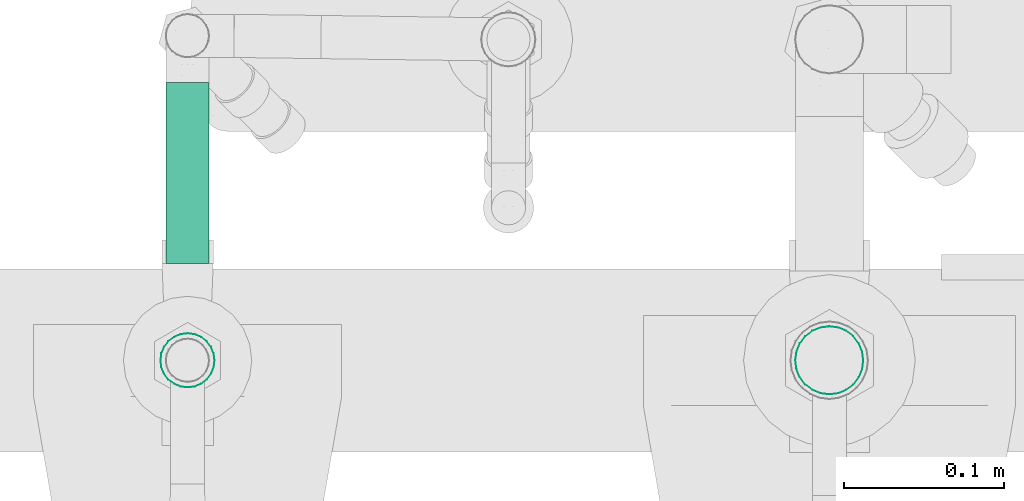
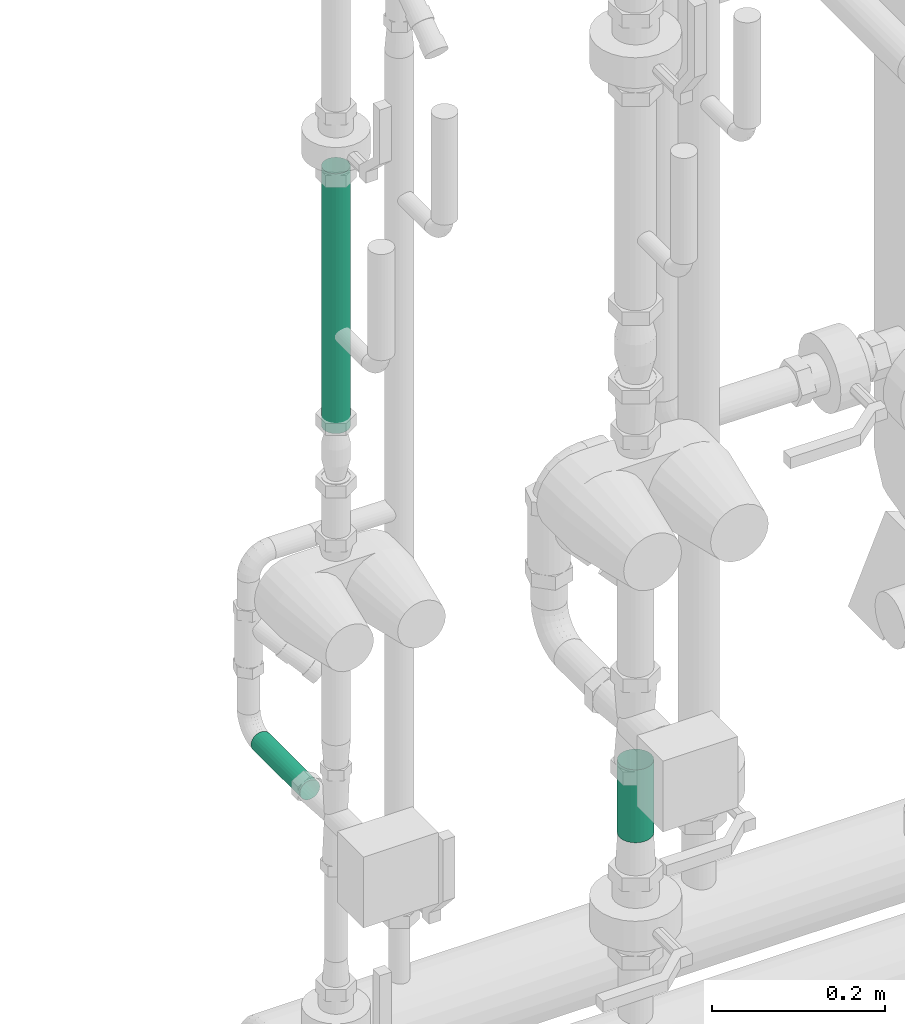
# One storey, part 252 of 374: 3 flow segments.
"""IFC2X3 building model written with IfcOpenShell, lengths in metres."""

from ifc_helpers import new_model, si_unit, direction, origin, place, context, subcontext, project, spatial, open_shell, surface_model, source, transform, mapped, element, save


model = new_model("IFC2X3")

# Units and contexts
model_context = context("Model", 3, precision=1e-05, world=origin(), true_north=direction((-0.4480736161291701, 0.8939966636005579)))
body_context = subcontext(model_context, "Body", "Model", "MODEL_VIEW")
ifc_project = project(units=[si_unit("LENGTHUNIT", "METRE"), si_unit("AREAUNIT", "SQUARE_METRE"), si_unit("VOLUMEUNIT", "CUBIC_METRE"), si_unit("PLANEANGLEUNIT", "RADIAN"), si_unit("THERMODYNAMICTEMPERATUREUNIT", "KELVIN"), si_unit("MASSUNIT", "GRAM", prefix="KILO"), si_unit("TIMEUNIT", "SECOND")], contexts=[model_context])

# Site, building, storey
site_placement = place(None, origin())
site = spatial("IfcSite", under=ifc_project, at=site_placement, Name="Site 1", CompositionType="ELEMENT")
building_placement = place(site_placement, origin())
building = spatial("IfcBuilding", under=site, at=building_placement, Name="Undefined", CompositionType="ELEMENT")
storey_placement = place(building_placement, origin())
storey = spatial("IfcBuildingStorey", under=building, at=storey_placement, Name="Rez de chauss\x8ee", CompositionType="ELEMENT", Elevation=0.0)

# Flow segments
shared_shape_1 = source(origin(), body_context, "Body", "SurfaceModel", [
    surface_model("IfcFaceBasedSurfaceModel", [(0.0, 0.004398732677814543, 0.0), (0.0, 0.0, 0.0), (0.3667415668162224, -8.8817842e-16, 0.0), (0.3667415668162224, 0.004398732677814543, 0.0), (0.0, -0.004248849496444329, -0.00113847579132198), (0.3667415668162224, -0.004248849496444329, -0.00113847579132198), (0.0, -0.008058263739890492, -0.003337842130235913), (0.3667415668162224, -0.008058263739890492, -0.003337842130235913), (0.0, -0.01116863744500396, -0.0064482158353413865), (0.3667415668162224, -0.01116863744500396, -0.0064482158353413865), (0.0, -0.013368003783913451, -0.010257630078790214), (0.3667415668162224, -0.013368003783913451, -0.010257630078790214), (0.0, -0.014506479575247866, -0.014506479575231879), (0.3667415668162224, -0.014506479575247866, -0.014506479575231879), (0.0, -0.01450647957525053, -0.01890521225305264), (0.3667415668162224, -0.01450647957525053, -0.01890521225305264), (0.0, -0.013368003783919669, -0.023154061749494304), (0.3667415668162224, -0.013368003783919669, -0.023154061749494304), (0.0, -0.011168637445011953, -0.02696347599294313), (0.3667415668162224, -0.011168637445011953, -0.02696347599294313), (0.0, -0.008058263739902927, -0.03007384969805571), (0.3667415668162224, -0.008058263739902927, -0.03007384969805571), (0.0, -0.004248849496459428, -0.03227321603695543), (0.3667415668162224, -0.004248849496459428, -0.03227321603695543), (0.0, -1.5099033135e-14, -0.03341169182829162), (0.3667415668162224, -1.5099033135e-14, -0.03341169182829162), (0.0, 0.00439873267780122, -0.03341169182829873), (0.3667415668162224, 0.00439873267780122, -0.03341169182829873), (0.0, 0.008647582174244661, -0.03227321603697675), (0.3667415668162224, 0.008647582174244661, -0.03227321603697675), (0.0, 0.012456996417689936, -0.030073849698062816), (0.3667415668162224, 0.012456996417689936, -0.030073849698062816), (0.0, 0.01556737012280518, -0.026963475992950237), (0.3667415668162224, 0.01556737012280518, -0.026963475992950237), (0.0, 0.017766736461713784, -0.023154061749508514), (0.3667415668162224, 0.017766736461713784, -0.023154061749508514), (0.0, 0.018905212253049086, -0.01890521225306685), (0.3667415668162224, 0.018905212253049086, -0.01890521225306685), (0.0, 0.018905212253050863, -0.01450647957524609), (0.3667415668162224, 0.018905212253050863, -0.01450647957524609), (0.0, 0.01776673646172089, -0.01025763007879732), (0.3667415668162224, 0.01776673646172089, -0.01025763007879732), (0.0, 0.015567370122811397, -0.006448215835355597), (0.3667415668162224, 0.015567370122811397, -0.006448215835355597), (0.0, 0.012456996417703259, -0.0033378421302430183), (0.3667415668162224, 0.012456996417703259, -0.0033378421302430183), (0.0, 0.00864758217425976, -0.0011384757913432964), (0.3667415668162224, 0.00864758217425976, -0.0011384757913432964)], [open_shell([[[0, 1, 2, 3]], [[1, 4, 5, 2]], [[4, 6, 7, 5]], [[6, 8, 9, 7]], [[8, 10, 11, 9]], [[10, 12, 13, 11]], [[12, 14, 15, 13]], [[14, 16, 17, 15]], [[16, 18, 19, 17]], [[18, 20, 21, 19]], [[20, 22, 23, 21]], [[22, 24, 25, 23]], [[24, 26, 27, 25]], [[26, 28, 29, 27]], [[28, 30, 31, 29]], [[30, 32, 33, 31]], [[32, 34, 35, 33]], [[34, 36, 37, 35]], [[36, 38, 39, 37]], [[38, 40, 41, 39]], [[40, 42, 43, 41]], [[42, 44, 45, 43]], [[44, 46, 47, 45]], [[46, 0, 3, 47]]])]),
])
flow_segment_1_placement = place(storey_placement, origin())
element("IfcFlowSegment", 1, at=flow_segment_1_placement, inside=storey, Name="Tube acier d'après DIN 2448", ObjectType="Tube acier d'après DIN 2448", context=body_context, shape_type="MappedRepresentation", body=[
    mapped(shared_shape_1, transform((52.07383786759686, 10.722398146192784, 1.3275475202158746), x_axis=(0.0, 0.0, 1.0), y_axis=(0.13052619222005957, -0.9914448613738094, 0.0), z_axis=(0.9914448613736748, 0.13052619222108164, 0.0))),
])
shared_shape_2 = source(origin(), body_context, "Body", "SurfaceModel", [
    surface_model("IfcFaceBasedSurfaceModel", [(0.0, 0.0035111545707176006, 0.0), (0.0, 0.0, 0.0), (0.11278886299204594, -1.776356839e-15, -7.105427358e-15), (0.11278886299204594, 0.0035111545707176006, 0.0), (0.0, -0.003391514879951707, -0.0009087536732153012), (0.11278886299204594, -0.003391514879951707, -0.0009087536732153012), (0.0, -0.006432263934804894, -0.0026643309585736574), (0.11278886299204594, -0.006432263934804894, -0.0026643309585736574), (0.0, -0.00891502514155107, -0.005147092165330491), (0.11278886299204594, -0.00891502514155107, -0.005147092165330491), (0.0, -0.010670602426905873, -0.008187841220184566), (0.11278886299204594, -0.010670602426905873, -0.008187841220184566), (0.0, -0.011579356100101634, -0.01157935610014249), (0.11278886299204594, -0.011579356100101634, -0.01157935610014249), (0.0, -0.011579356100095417, -0.015090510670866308), (0.11278886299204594, -0.011579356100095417, -0.015090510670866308), (0.0, -0.010670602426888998, -0.018482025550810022), (0.11278886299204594, -0.010670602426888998, -0.018482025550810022), (0.0, -0.008915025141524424, -0.021522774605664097), (0.11278886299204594, -0.008915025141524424, -0.021522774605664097), (0.0, -0.006432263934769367, -0.02400553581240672), (0.11278886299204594, -0.006432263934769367, -0.02400553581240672), (0.0, -0.0033915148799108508, -0.025761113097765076), (0.11278886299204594, -0.0033915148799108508, -0.025761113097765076), (0.0, 4.2632564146e-14, -0.026669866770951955), (0.11278886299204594, 4.2632564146e-14, -0.026669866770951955), (0.0, 0.0035111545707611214, -0.026669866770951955), (0.11278886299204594, 0.0035111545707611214, -0.026669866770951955), (0.0, 0.006902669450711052, -0.02576111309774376), (0.11278886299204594, 0.006902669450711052, -0.02576111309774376), (0.0, 0.00994341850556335, -0.024005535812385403), (0.11278886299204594, 0.00994341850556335, -0.024005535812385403), (0.0, 0.012426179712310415, -0.02152277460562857), (0.11278886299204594, 0.012426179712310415, -0.02152277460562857), (0.0, 0.014181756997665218, -0.018482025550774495), (0.11278886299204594, 0.014181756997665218, -0.018482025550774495), (0.0, 0.015090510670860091, -0.01509051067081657), (0.11278886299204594, 0.015090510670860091, -0.01509051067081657), (0.0, 0.015090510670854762, -0.011579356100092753), (0.11278886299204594, 0.015090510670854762, -0.011579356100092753), (0.0, 0.014181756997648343, -0.00818784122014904), (0.11278886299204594, 0.014181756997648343, -0.00818784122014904), (0.0, 0.012426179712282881, -0.005147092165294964), (0.11278886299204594, 0.012426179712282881, -0.005147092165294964), (0.0, 0.009943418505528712, -0.002664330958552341), (0.11278886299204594, 0.009943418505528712, -0.002664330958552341), (0.0, 0.006902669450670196, -0.0009087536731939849), (0.11278886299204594, 0.006902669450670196, -0.0009087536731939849)], [open_shell([[[0, 1, 2, 3]], [[1, 4, 5, 2]], [[4, 6, 7, 5]], [[6, 8, 9, 7]], [[8, 10, 11, 9]], [[10, 12, 13, 11]], [[12, 14, 15, 13]], [[14, 16, 17, 15]], [[16, 18, 19, 17]], [[18, 20, 21, 19]], [[20, 22, 23, 21]], [[22, 24, 25, 23]], [[24, 26, 27, 25]], [[26, 28, 29, 27]], [[28, 30, 31, 29]], [[30, 32, 33, 31]], [[32, 34, 35, 33]], [[34, 36, 37, 35]], [[36, 38, 39, 37]], [[38, 40, 41, 39]], [[40, 42, 43, 41]], [[42, 44, 45, 43]], [[44, 46, 47, 45]], [[46, 0, 3, 47]]])]),
])
flow_segment_2_placement = place(storey_placement, origin())
element("IfcFlowSegment", 2, at=flow_segment_2_placement, inside=storey, Name="Tube acier d'après DIN 2448", ObjectType="Tube acier d'après DIN 2448", context=body_context, shape_type="MappedRepresentation", body=[
    mapped(shared_shape_2, transform((52.0445703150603, 10.778537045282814, 0.7798323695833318), x_axis=(0.0, 1.0, 0.0), y_axis=(-0.13052619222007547, 0.0, -0.9914448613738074), z_axis=(-0.9914448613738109, 0.0, 0.1305261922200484))),
])
shared_shape_3 = source(origin(), body_context, "Body", "SurfaceModel", [
    surface_model("IfcFaceBasedSurfaceModel", [(0.0, 0.005534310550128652, 0.0), (0.0, 0.0, 0.0), (0.10290125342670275, -8.8817842e-16, 7.105427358e-15), (0.10290125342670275, 0.005534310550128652, 0.0), (0.0, -0.00534573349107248, -0.0014323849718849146), (0.10290125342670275, -0.00534573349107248, -0.0014323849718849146), (0.0, -0.010138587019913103, -0.004199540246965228), (0.10290125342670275, -0.010138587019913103, -0.004199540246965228), (0.0, -0.01405193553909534, -0.008112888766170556), (0.10290125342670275, -0.01405193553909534, -0.008112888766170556), (0.0, -0.016819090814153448, -0.012905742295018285), (0.10290125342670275, -0.016819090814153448, -0.012905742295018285), (0.0, -0.018251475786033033, -0.018251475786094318), (0.10290125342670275, -0.018251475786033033, -0.018251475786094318), (0.0, -0.0182514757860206, -0.02378578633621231), (0.10290125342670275, -0.0182514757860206, -0.02378578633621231), (0.0, -0.01681909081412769, -0.029131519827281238), (0.10290125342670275, -0.01681909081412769, -0.029131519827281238), (0.0, -0.014051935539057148, -0.03392437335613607), (0.10290125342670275, -0.014051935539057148, -0.03392437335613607), (0.0, -0.010138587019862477, -0.037837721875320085), (0.10290125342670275, -0.010138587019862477, -0.037837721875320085), (0.0, -0.005345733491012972, -0.040604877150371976), (0.10290125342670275, -0.005345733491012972, -0.040604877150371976), (0.0, 6.4837024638e-14, -0.042037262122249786), (0.10290125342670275, 6.4837024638e-14, -0.042037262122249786), (0.0, 0.005534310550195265, -0.04203726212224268), (0.10290125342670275, 0.005534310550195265, -0.04203726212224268), (0.0, 0.010880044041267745, -0.04060487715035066), (0.10290125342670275, 0.010880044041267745, -0.04060487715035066), (0.0, 0.01567289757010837, -0.03783772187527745), (0.10290125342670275, 0.01567289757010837, -0.03783772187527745), (0.0, 0.019586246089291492, -0.033924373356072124), (0.10290125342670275, 0.019586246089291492, -0.033924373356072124), (0.0, 0.0223534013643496, -0.029131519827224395), (0.10290125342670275, 0.0223534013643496, -0.029131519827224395), (0.0, 0.02378578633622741, -0.023785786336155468), (0.10290125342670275, 0.02378578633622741, -0.023785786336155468), (0.0, 0.023785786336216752, -0.01825147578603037), (0.10290125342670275, 0.023785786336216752, -0.01825147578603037), (0.0, 0.022353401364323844, -0.012905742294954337), (0.10290125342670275, 0.022353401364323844, -0.012905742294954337), (0.0, 0.019586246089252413, -0.008112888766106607), (0.10290125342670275, 0.019586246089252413, -0.008112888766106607), (0.0, 0.015672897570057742, -0.004199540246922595), (0.10290125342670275, 0.015672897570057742, -0.004199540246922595), (0.0, 0.010880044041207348, -0.0014323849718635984), (0.10290125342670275, 0.010880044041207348, -0.0014323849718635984)], [open_shell([[[0, 1, 2, 3]], [[1, 4, 5, 2]], [[4, 6, 7, 5]], [[6, 8, 9, 7]], [[8, 10, 11, 9]], [[10, 12, 13, 11]], [[12, 14, 15, 13]], [[14, 16, 17, 15]], [[16, 18, 19, 17]], [[18, 20, 21, 19]], [[20, 22, 23, 21]], [[22, 24, 25, 23]], [[24, 26, 27, 25]], [[26, 28, 29, 27]], [[28, 30, 31, 29]], [[30, 32, 33, 31]], [[32, 34, 35, 33]], [[34, 36, 37, 35]], [[36, 38, 39, 37]], [[38, 40, 41, 39]], [[40, 42, 43, 41]], [[42, 44, 45, 43]], [[44, 46, 47, 45]], [[46, 0, 3, 47]]])]),
])
flow_segment_3_placement = place(storey_placement, origin())
element("IfcFlowSegment", 3, at=flow_segment_3_placement, inside=storey, Name="Tube acier d'après DIN 2448", ObjectType="Tube acier d'après DIN 2448", context=body_context, shape_type="MappedRepresentation", body=[
    mapped(shared_shape_3, transform((52.478039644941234, 10.72352400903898, 0.6129500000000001), x_axis=(0.0, 0.0, 1.0), y_axis=(0.13052619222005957, -0.9914448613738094, 0.0), z_axis=(0.9914448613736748, 0.13052619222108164, 0.0))),
])

save(model, "model.ifc")
